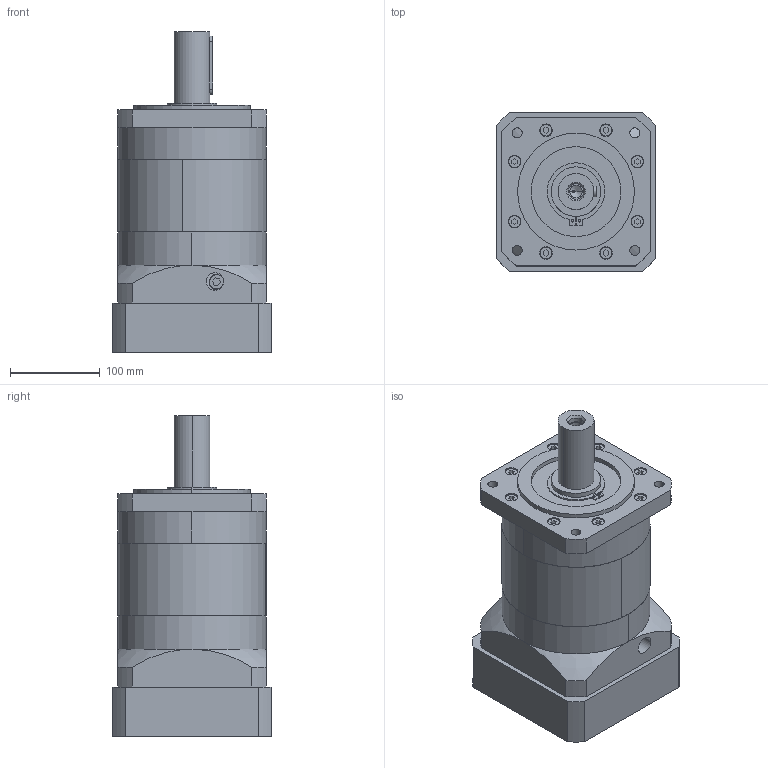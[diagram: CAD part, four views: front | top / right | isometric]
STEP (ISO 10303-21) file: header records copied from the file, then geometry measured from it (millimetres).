
FILE_DESCRIPTION (( 'STEP AP203' ), '1' );
FILE_NAME ('PLF160-L2-42-114.3-200.STEP', '2024-04-20T08:28:06', ( 'Windows User' ), ( 'P R C' ), 'SwSTEP 2.0', 'SolidWorks 2016', '' );
FILE_SCHEMA (( 'CONFIG_CONTROL_DESIGN' ));
Length unit declared in the file: millimetre
Products named in the file (8): PLF160 內齿圈_二级内齿圈; PLF160 奻屳唳; 邧埴瑩 12x8x65; GB／T276-94深沟球轴承6011-2RZ; PLF160-帣釱-薊粣ん-42-LR66; PLF160-蟀諉啣-114.3-M10-200-55L_2; PLF160-L2-42-114.3-200; GB／T70．1-2000内六角圆柱头螺钉M10×35
Assembly tree (8 placements, depth 2):
  PLF160-L2-42-114.3-200
    GB／T70．1-2000内六角圆柱头螺钉M10×35  x2
    PLF160 內齿圈_二级内齿圈
    PLF160 奻屳唳
    邧埴瑩 12x8x65
    GB／T276-94深沟球轴承6011-2RZ
    PLF160-帣釱-薊粣ん-42-LR66
    PLF160-蟀諉啣-114.3-M10-200-55L_2
Bounding box: 176 x 176 x 357 mm (x, y, z)
Volume: 5716528 mm3; surface area: 523523 mm2
Topology: 8 solids, 16 shells, 1195 faces, 3188 edges, 2098 vertices
Faces by surface type: plane 662, cylinder 216, bspline 150, sphere 83, torus 56, cone 28
Entity records: 47727 total; most frequent: CARTESIAN_POINT 18655, ORIENTED_EDGE 6174, DIRECTION 5223, EDGE_CURVE 3087, VERTEX_POINT 2044, VECTOR 1791, LINE 1791, AXIS2_PLACEMENT_3D 1716
